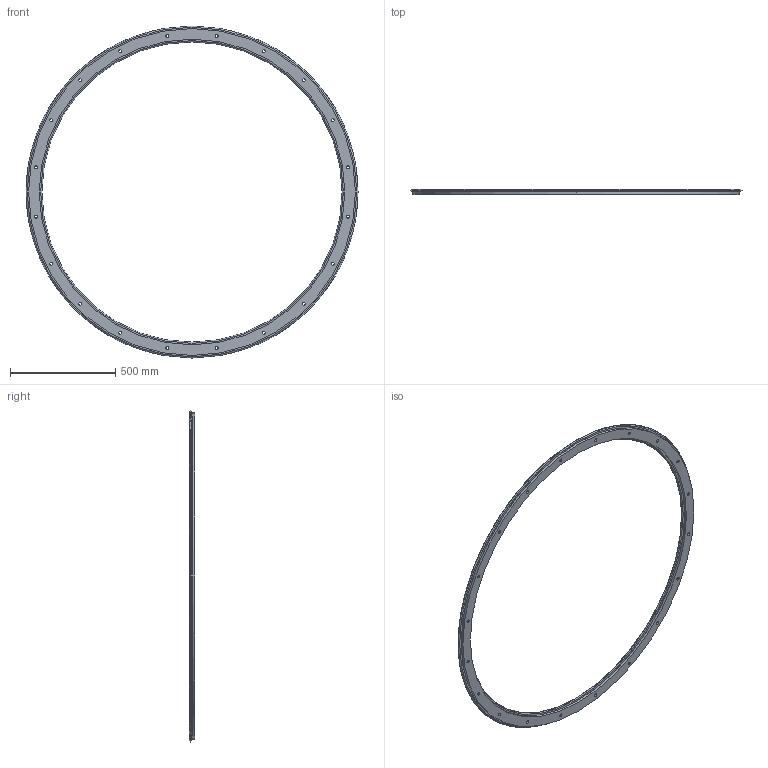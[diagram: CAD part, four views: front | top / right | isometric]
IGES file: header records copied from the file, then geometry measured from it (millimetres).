
Start section: 3D InterOp IGES (v. 2020 1.0.1), Spatial Corp. Copyright (c) 1999-2017.
Global section: file name: r76_1501_r360.igs; native system: Spatial Corp.; preprocessor: 3D InterOp ACIS/IGES; author: TraceParts; organization: TraceParts S.A.; date: 20220624.073649; units: millimetre
Bounding box: 1576.61 x 24 x 1576.61 mm (x, y, z)
Surface area: 976787.2 mm2 (no closed solid volume)
Topology: 0 solids, 0 shells, 130 faces, 600 edges, 600 vertices
Faces by surface type: revolution 104, extrusion 26
